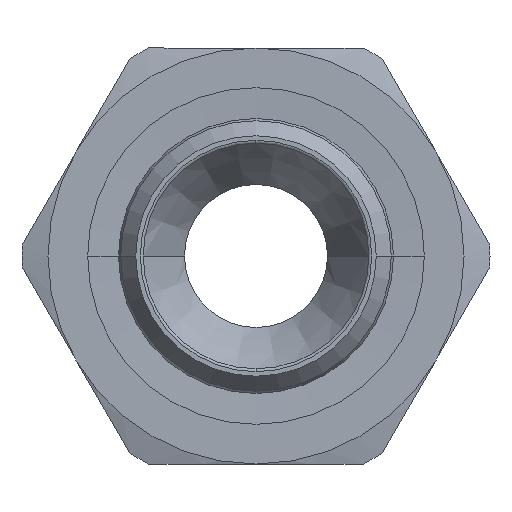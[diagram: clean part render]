
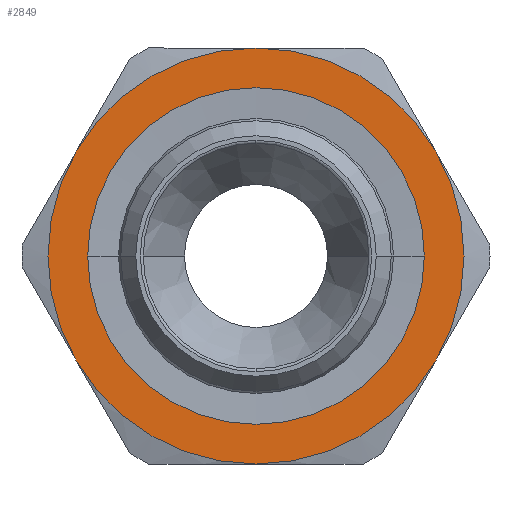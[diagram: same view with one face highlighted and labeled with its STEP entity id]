
A CAD part, left-side view. The second image highlights one B-rep face of the part: STEP entity #2849.
In plain terms, the highlighted planar face has unit normal (-1, 0, 0) as drawn and (0, 0, 1) by its records, which use the part's own axes.
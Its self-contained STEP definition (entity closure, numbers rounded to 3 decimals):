
#1176=CARTESIAN_POINT('',(0.,-12.95,4.5));
#1177=VERTEX_POINT('',#1176);
#1193=CARTESIAN_POINT('',(0.,12.95,4.5));
#1194=VERTEX_POINT('',#1193);
#1201=CARTESIAN_POINT('',(0.,0.,4.5));
#1202=DIRECTION('',(0.0,0.0,-1.0));
#1203=DIRECTION('',(0.0,-1.0,0.0));
#1204=AXIS2_PLACEMENT_3D('',#1201,#1202,#1203);
#1205=CIRCLE('',#1204,12.95);
#1206=EDGE_CURVE('',#1177,#1194,#1205,.T.);
#1663=CARTESIAN_POINT('',(0.,0.,4.5));
#1664=DIRECTION('',(0.0,0.0,-1.0));
#1665=DIRECTION('',(0.0,-1.0,0.0));
#1666=AXIS2_PLACEMENT_3D('',#1663,#1664,#1665);
#1667=CIRCLE('',#1666,12.95);
#1668=EDGE_CURVE('',#1194,#1177,#1667,.T.);
#2222=CARTESIAN_POINT('',(8.,-13.856,4.5));
#2223=VERTEX_POINT('',#2222);
#2237=CARTESIAN_POINT('',(-8.,-13.856,4.5));
#2238=VERTEX_POINT('',#2237);
#2239=CARTESIAN_POINT('',(0.,0.0,4.5));
#2240=DIRECTION('',(0.0,0.0,1.0));
#2241=DIRECTION('',(1.0,0.0,0.0));
#2242=AXIS2_PLACEMENT_3D('',#2239,#2240,#2241);
#2243=CIRCLE('',#2242,16.);
#2244=EDGE_CURVE('',#2238,#2223,#2243,.T.);
#2322=CARTESIAN_POINT('',(-16.0,0.,4.5));
#2323=VERTEX_POINT('',#2322);
#2324=CARTESIAN_POINT('',(0.,0.0,4.5));
#2325=DIRECTION('',(0.0,0.0,1.0));
#2326=DIRECTION('',(1.0,0.0,0.0));
#2327=AXIS2_PLACEMENT_3D('',#2324,#2325,#2326);
#2328=CIRCLE('',#2327,16.);
#2329=EDGE_CURVE('',#2323,#2238,#2328,.T.);
#2406=CARTESIAN_POINT('',(-8.,13.856,4.5));
#2407=VERTEX_POINT('',#2406);
#2408=CARTESIAN_POINT('',(0.,0.0,4.5));
#2409=DIRECTION('',(0.0,0.0,1.0));
#2410=DIRECTION('',(1.0,0.0,0.0));
#2411=AXIS2_PLACEMENT_3D('',#2408,#2409,#2410);
#2412=CIRCLE('',#2411,16.);
#2413=EDGE_CURVE('',#2407,#2323,#2412,.T.);
#2490=CARTESIAN_POINT('',(8.,13.856,4.5));
#2491=VERTEX_POINT('',#2490);
#2492=CARTESIAN_POINT('',(0.,0.0,4.5));
#2493=DIRECTION('',(0.0,0.0,1.0));
#2494=DIRECTION('',(1.0,0.0,0.0));
#2495=AXIS2_PLACEMENT_3D('',#2492,#2493,#2494);
#2496=CIRCLE('',#2495,16.);
#2497=EDGE_CURVE('',#2491,#2407,#2496,.T.);
#2575=CARTESIAN_POINT('',(16.0,0.0,4.5));
#2576=VERTEX_POINT('',#2575);
#2577=CARTESIAN_POINT('',(0.,0.0,4.5));
#2578=DIRECTION('',(0.0,0.0,1.0));
#2579=DIRECTION('',(1.0,0.0,0.0));
#2580=AXIS2_PLACEMENT_3D('',#2577,#2578,#2579);
#2581=CIRCLE('',#2580,16.);
#2582=EDGE_CURVE('',#2576,#2491,#2581,.T.);
#2659=CARTESIAN_POINT('',(0.,0.0,4.5));
#2660=DIRECTION('',(0.0,0.0,1.0));
#2661=DIRECTION('',(1.0,0.0,0.0));
#2662=AXIS2_PLACEMENT_3D('',#2659,#2660,#2661);
#2663=CIRCLE('',#2662,16.);
#2664=EDGE_CURVE('',#2223,#2576,#2663,.T.);
#2832=CARTESIAN_POINT('',(0.,0.,4.5));
#2833=DIRECTION('',(0.0,0.0,1.0));
#2834=DIRECTION('',(1.0,0.0,0.0));
#2835=AXIS2_PLACEMENT_3D('',#2832,#2833,#2834);
#2836=PLANE('',#2835);
#2837=ORIENTED_EDGE('',*,*,#2664,.T.);
#2838=ORIENTED_EDGE('',*,*,#2582,.T.);
#2839=ORIENTED_EDGE('',*,*,#2497,.T.);
#2840=ORIENTED_EDGE('',*,*,#2413,.T.);
#2841=ORIENTED_EDGE('',*,*,#2329,.T.);
#2842=ORIENTED_EDGE('',*,*,#2244,.T.);
#2843=EDGE_LOOP('',(#2837,#2838,#2839,#2840,#2841,#2842));
#2844=FACE_OUTER_BOUND('',#2843,.T.);
#2845=ORIENTED_EDGE('',*,*,#1206,.T.);
#2846=ORIENTED_EDGE('',*,*,#1668,.T.);
#2847=EDGE_LOOP('',(#2845,#2846));
#2848=FACE_BOUND('',#2847,.T.);
#2849=ADVANCED_FACE('',(#2844,#2848),#2836,.T.);
